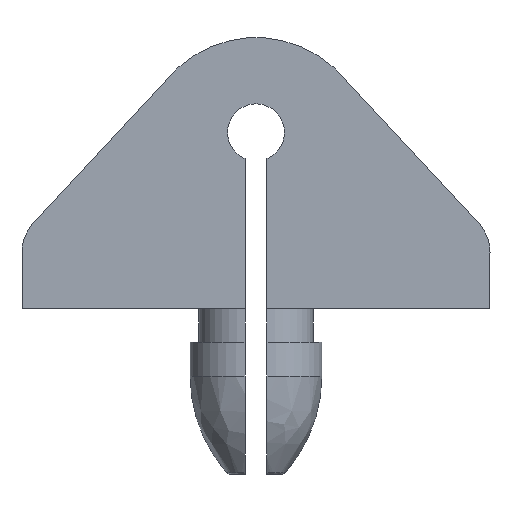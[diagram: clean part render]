
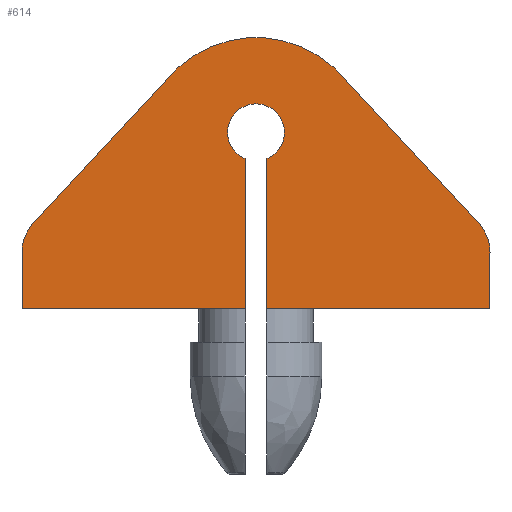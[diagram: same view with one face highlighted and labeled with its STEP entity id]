
A CAD part, front view. The second image highlights one B-rep face of the part: STEP entity #614.
In plain terms, the highlighted planar face has unit normal (0, -1, 0).
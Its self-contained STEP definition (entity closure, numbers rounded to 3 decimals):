
#5 = ORIENTED_EDGE ( 'NONE', *, *, #26, .F. ) ;
#17 = EDGE_CURVE ( 'NONE', #678, #890, #724, .T. ) ;
#26 = EDGE_CURVE ( 'NONE', #1119, #310, #122, .T. ) ;
#35 = DIRECTION ( 'NONE',  ( 0., 0., -1. ) ) ;
#38 = ORIENTED_EDGE ( 'NONE', *, *, #1292, .F. ) ;
#39 = CARTESIAN_POINT ( 'NONE',  ( 25650.787, 14446.606, 8.649 ) ) ;
#45 = PLANE ( 'NONE',  #1102 ) ;
#51 = CARTESIAN_POINT ( 'NONE',  ( 25635.537, 14446.606, 0.937 ) ) ;
#59 = CARTESIAN_POINT ( 'NONE',  ( 25645.002, 14446.606, 8.649 ) ) ;
#74 = VECTOR ( 'NONE', #1279, 1000. ) ;
#77 = DIRECTION ( 'NONE',  ( 0., 0., 1. ) ) ;
#82 = ORIENTED_EDGE ( 'NONE', *, *, #176, .F. ) ;
#88 = DIRECTION ( 'NONE',  ( 1., 0., 0. ) ) ;
#89 = LINE ( 'NONE', #417, #949 ) ;
#99 = LINE ( 'NONE', #39, #1234 ) ;
#115 = CARTESIAN_POINT ( 'NONE',  ( 25664.537, 14446.606, 4.794 ) ) ;
#118 = LINE ( 'NONE', #837, #1253 ) ;
#122 = LINE ( 'NONE', #154, #1256 ) ;
#154 = CARTESIAN_POINT ( 'NONE',  ( 25636.211, 14446.606, 6.689 ) ) ;
#172 = CARTESIAN_POINT ( 'NONE',  ( 25667.537, 14446.606, 4.794 ) ) ;
#176 = EDGE_CURVE ( 'NONE', #1378, #1074, #1092, .T. ) ;
#192 = VERTEX_POINT ( 'NONE', #51 ) ;
#193 = CARTESIAN_POINT ( 'NONE',  ( 25636.211, 14446.606, 6.689 ) ) ;
#214 = DIRECTION ( 'NONE',  ( 0., 1., 0. ) ) ;
#216 = AXIS2_PLACEMENT_3D ( 'NONE', #1389, #1397, #88 ) ;
#219 = FACE_OUTER_BOUND ( 'NONE', #505, .T. ) ;
#244 = CARTESIAN_POINT ( 'NONE',  ( 25667.537, 14446.606, 0.937 ) ) ;
#253 = DIRECTION ( 'NONE',  ( 0., 1., 0. ) ) ;
#264 = DIRECTION ( 'NONE',  ( 0., 0., 1. ) ) ;
#272 = CARTESIAN_POINT ( 'NONE',  ( 25652.287, 14446.606, 8.649 ) ) ;
#290 = VERTEX_POINT ( 'NONE', #328 ) ;
#292 = CARTESIAN_POINT ( 'NONE',  ( 25657.693, 14446.606, 16.55 ) ) ;
#297 = VERTEX_POINT ( 'NONE', #244 ) ;
#310 = VERTEX_POINT ( 'NONE', #362 ) ;
#311 = ORIENTED_EDGE ( 'NONE', *, *, #954, .F. ) ;
#325 = ORIENTED_EDGE ( 'NONE', *, *, #718, .F. ) ;
#326 = VERTEX_POINT ( 'NONE', #770 ) ;
#328 = CARTESIAN_POINT ( 'NONE',  ( 25635.537, 14446.606, 4.794 ) ) ;
#335 = DIRECTION ( 'NONE',  ( 0., 0., 1. ) ) ;
#357 = DIRECTION ( 'NONE',  ( -1., 0., 0. ) ) ;
#362 = CARTESIAN_POINT ( 'NONE',  ( 25645.382, 14446.606, 16.55 ) ) ;
#364 = DIRECTION ( 'NONE',  ( 0.681, 0., 0.732 ) ) ;
#367 = ORIENTED_EDGE ( 'NONE', *, *, #407, .F. ) ;
#407 = EDGE_CURVE ( 'NONE', #326, #192, #1051, .T. ) ;
#417 = CARTESIAN_POINT ( 'NONE',  ( 25657.693, 14446.606, 16.55 ) ) ;
#436 = EDGE_CURVE ( 'NONE', #832, #326, #99, .T. ) ;
#449 = AXIS2_PLACEMENT_3D ( 'NONE', #646, #535, #737 ) ;
#456 = ORIENTED_EDGE ( 'NONE', *, *, #644, .F. ) ;
#494 = ORIENTED_EDGE ( 'NONE', *, *, #436, .F. ) ;
#505 = EDGE_LOOP ( 'NONE', ( #5, #38, #931, #367, #494, #753, #605, #456, #325, #82, #311, #798 ) ) ;
#535 = DIRECTION ( 'NONE',  ( 0., 1., 0. ) ) ;
#605 = ORIENTED_EDGE ( 'NONE', *, *, #17, .F. ) ;
#614 = ADVANCED_FACE ( 'NONE', ( #219 ), #45, .F. ) ;
#636 = EDGE_CURVE ( 'NONE', #890, #832, #1070, .T. ) ;
#644 = EDGE_CURVE ( 'NONE', #297, #678, #118, .T. ) ;
#645 = CARTESIAN_POINT ( 'NONE',  ( 25650.787, 14446.606, 11.205 ) ) ;
#646 = CARTESIAN_POINT ( 'NONE',  ( 25651.537, 14446.606, 11.537 ) ) ;
#678 = VERTEX_POINT ( 'NONE', #1138 ) ;
#682 = LINE ( 'NONE', #953, #74 ) ;
#711 = DIRECTION ( 'NONE',  ( 0.681, 0., -0.732 ) ) ;
#718 = EDGE_CURVE ( 'NONE', #1074, #297, #682, .T. ) ;
#724 = LINE ( 'NONE', #272, #1284 ) ;
#737 = DIRECTION ( 'NONE',  ( 1., 0., 0. ) ) ;
#744 = CARTESIAN_POINT ( 'NONE',  ( 25651.537, 14446.606, 13. ) ) ;
#745 = CIRCLE ( 'NONE', #216, 3. ) ;
#752 = DIRECTION ( 'NONE',  ( 0., -1., 0. ) ) ;
#753 = ORIENTED_EDGE ( 'NONE', *, *, #636, .F. ) ;
#763 = CARTESIAN_POINT ( 'NONE',  ( 25645.002, 14446.606, 0.937 ) ) ;
#764 = CARTESIAN_POINT ( 'NONE',  ( 25666.863, 14446.606, 6.689 ) ) ;
#770 = CARTESIAN_POINT ( 'NONE',  ( 25650.787, 14446.606, 0.937 ) ) ;
#798 = ORIENTED_EDGE ( 'NONE', *, *, #1337, .F. ) ;
#814 = DIRECTION ( 'NONE',  ( 0., 0., -1. ) ) ;
#832 = VERTEX_POINT ( 'NONE', #645 ) ;
#837 = CARTESIAN_POINT ( 'NONE',  ( 25645.002, 14446.606, 0.937 ) ) ;
#867 = CARTESIAN_POINT ( 'NONE',  ( 25652.287, 14446.606, 11.205 ) ) ;
#873 = DIRECTION ( 'NONE',  ( -1., 0., 0. ) ) ;
#890 = VERTEX_POINT ( 'NONE', #867 ) ;
#931 = ORIENTED_EDGE ( 'NONE', *, *, #1267, .F. ) ;
#949 = VECTOR ( 'NONE', #711, 1000. ) ;
#953 = CARTESIAN_POINT ( 'NONE',  ( 25667.537, 14446.606, 8.649 ) ) ;
#954 = EDGE_CURVE ( 'NONE', #1165, #1378, #89, .T. ) ;
#993 = VECTOR ( 'NONE', #357, 1000. ) ;
#1030 = VECTOR ( 'NONE', #1275, 1000. ) ;
#1051 = LINE ( 'NONE', #763, #993 ) ;
#1070 = CIRCLE ( 'NONE', #1245, 1.945 ) ;
#1074 = VERTEX_POINT ( 'NONE', #172 ) ;
#1092 = CIRCLE ( 'NONE', #1109, 3. ) ;
#1094 = CARTESIAN_POINT ( 'NONE',  ( 25635.537, 14446.606, 8.649 ) ) ;
#1102 = AXIS2_PLACEMENT_3D ( 'NONE', #59, #253, #264 ) ;
#1109 = AXIS2_PLACEMENT_3D ( 'NONE', #115, #214, #77 ) ;
#1119 = VERTEX_POINT ( 'NONE', #193 ) ;
#1138 = CARTESIAN_POINT ( 'NONE',  ( 25652.287, 14446.606, 0.937 ) ) ;
#1165 = VERTEX_POINT ( 'NONE', #292 ) ;
#1234 = VECTOR ( 'NONE', #35, 1000. ) ;
#1245 = AXIS2_PLACEMENT_3D ( 'NONE', #744, #752, #814 ) ;
#1247 = CIRCLE ( 'NONE', #449, 7.938 ) ;
#1253 = VECTOR ( 'NONE', #873, 1000. ) ;
#1256 = VECTOR ( 'NONE', #364, 1000. ) ;
#1267 = EDGE_CURVE ( 'NONE', #192, #290, #1306, .T. ) ;
#1275 = DIRECTION ( 'NONE',  ( 0., 0., 1. ) ) ;
#1279 = DIRECTION ( 'NONE',  ( 0., 0., -1. ) ) ;
#1284 = VECTOR ( 'NONE', #335, 1000. ) ;
#1292 = EDGE_CURVE ( 'NONE', #290, #1119, #745, .T. ) ;
#1306 = LINE ( 'NONE', #1094, #1030 ) ;
#1337 = EDGE_CURVE ( 'NONE', #310, #1165, #1247, .T. ) ;
#1378 = VERTEX_POINT ( 'NONE', #764 ) ;
#1389 = CARTESIAN_POINT ( 'NONE',  ( 25638.537, 14446.606, 4.794 ) ) ;
#1397 = DIRECTION ( 'NONE',  ( 0., 1., 0. ) ) ;
